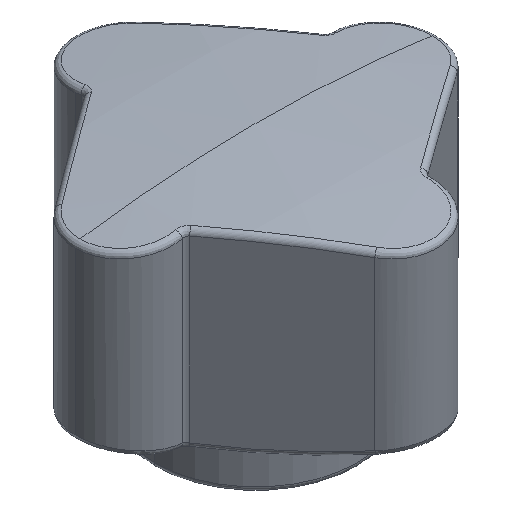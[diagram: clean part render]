
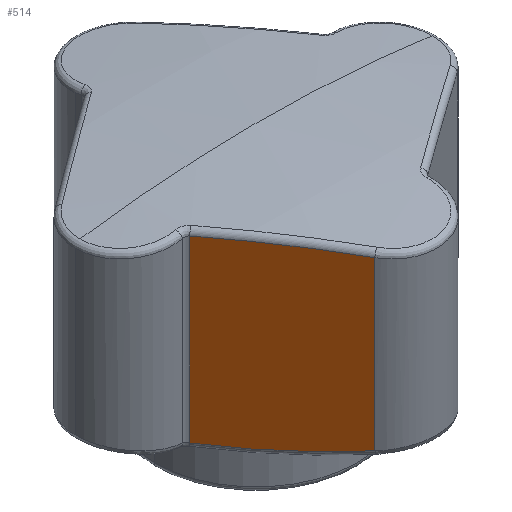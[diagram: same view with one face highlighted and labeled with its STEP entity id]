
A CAD part, isometric view. The second image highlights one B-rep face of the part: STEP entity #514.
In plain terms, the highlighted planar face has unit normal (-0.809, -0.588, 0).
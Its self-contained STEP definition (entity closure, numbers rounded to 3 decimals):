
#218 = EDGE_CURVE ( 'NONE', #553, #4669, #819, .T. ) ;
#222 = EDGE_CURVE ( 'NONE', #4652, #4669, #826, .T. ) ;
#514 = ADVANCED_FACE ( 'NONE', ( #1777 ), #1779, .T. ) ;
#518 = EDGE_LOOP ( 'NONE', ( #4192, #559, #4188, #4185 ) ) ;
#553 = VERTEX_POINT ( 'NONE', #1909 ) ;
#559 = ORIENTED_EDGE ( 'NONE', *, *, #218, .T. ) ;
#671 = EDGE_CURVE ( 'NONE', #4652, #4178, #2308, .T. ) ;
#799 = DIRECTION ( 'NONE',  ( 0., 0., -1. ) ) ;
#800 = VECTOR ( 'NONE', #799, 1000. ) ;
#801 = CARTESIAN_POINT ( 'NONE',  ( -3.641, -14.145, 25. ) ) ;
#802 = DIRECTION ( 'NONE',  ( 0.588, -0.809, 0. ) ) ;
#803 = DIRECTION ( 'NONE',  ( -0.809, -0.588, 0. ) ) ;
#804 = AXIS2_PLACEMENT_3D ( 'NONE', #818, #803, #802 ) ;
#818 = CARTESIAN_POINT ( 'NONE',  ( -9.109, -6.618, 63.824 ) ) ;
#819 = CIRCLE ( 'NONE', #804, 58.773 ) ;
#826 = LINE ( 'NONE', #801, #800 ) ;
#1770 = CARTESIAN_POINT ( 'NONE',  ( -3.641, -14.145, 25. ) ) ;
#1777 = FACE_OUTER_BOUND ( 'NONE', #518, .T. ) ;
#1779 = PLANE ( 'NONE',  #1832 ) ;
#1824 = DIRECTION ( 'NONE',  ( 0.588, -0.809, 0. ) ) ;
#1825 = DIRECTION ( 'NONE',  ( -0.809, -0.588, 0. ) ) ;
#1832 = AXIS2_PLACEMENT_3D ( 'NONE', #1770, #1825, #1824 ) ;
#1909 = CARTESIAN_POINT ( 'NONE',  ( -10.522, -4.673, 5.1 ) ) ;
#2247 = CARTESIAN_POINT ( 'NONE',  ( -9.109, -6.618, -90. ) ) ;
#2248 = AXIS2_PLACEMENT_3D ( 'NONE', #2247, #2286, #2285 ) ;
#2285 = DIRECTION ( 'NONE',  ( 0.588, -0.809, 0. ) ) ;
#2286 = DIRECTION ( 'NONE',  ( -0.809, -0.588, 0. ) ) ;
#2308 = CIRCLE ( 'NONE', #2248, 110.98 ) ;
#3393 = LINE ( 'NONE', #3436, #3435 ) ;
#3395 = CARTESIAN_POINT ( 'NONE',  ( -10.522, -4.673, 20.954 ) ) ;
#3434 = DIRECTION ( 'NONE',  ( 0., 0., -1. ) ) ;
#3435 = VECTOR ( 'NONE', #3434, 1000. ) ;
#3436 = CARTESIAN_POINT ( 'NONE',  ( -10.522, -4.673, 4.697 ) ) ;
#3851 = CARTESIAN_POINT ( 'NONE',  ( -3.641, -14.145, 5.792 ) ) ;
#3857 = CARTESIAN_POINT ( 'NONE',  ( -3.641, -14.145, 20.589 ) ) ;
#4178 = VERTEX_POINT ( 'NONE', #3395 ) ;
#4185 = ORIENTED_EDGE ( 'NONE', *, *, #671, .T. ) ;
#4186 = EDGE_CURVE ( 'NONE', #4178, #553, #3393, .T. ) ;
#4188 = ORIENTED_EDGE ( 'NONE', *, *, #222, .F. ) ;
#4192 = ORIENTED_EDGE ( 'NONE', *, *, #4186, .T. ) ;
#4652 = VERTEX_POINT ( 'NONE', #3857 ) ;
#4669 = VERTEX_POINT ( 'NONE', #3851 ) ;
